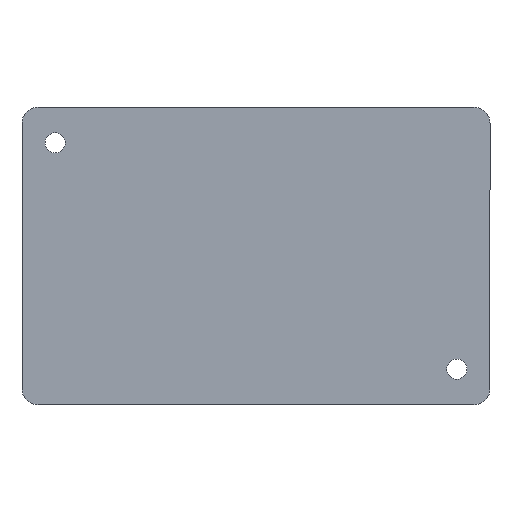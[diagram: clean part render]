
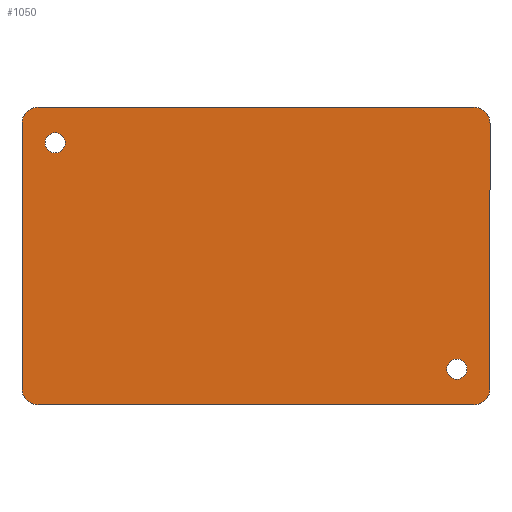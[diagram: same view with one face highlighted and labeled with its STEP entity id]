
A CAD part, front view. The second image highlights one B-rep face of the part: STEP entity #1050.
In plain terms, the highlighted planar face has unit normal (0, -1, 0).
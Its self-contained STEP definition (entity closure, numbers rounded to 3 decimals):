
#24 = VECTOR ( 'NONE', #1285, 1000. ) ;
#181 = CARTESIAN_POINT ( 'NONE',  ( -24.85, -12.7, 14. ) ) ;
#182 = DIRECTION ( 'NONE',  ( 0., 1., 0. ) ) ;
#183 = DIRECTION ( 'NONE',  ( 0., 0., 1. ) ) ;
#322 = EDGE_CURVE ( 'NONE', #2710, #2698, #1283, .T. ) ;
#355 = EDGE_CURVE ( 'NONE', #2698, #2715, #412, .T. ) ;
#360 = EDGE_CURVE ( 'NONE', #2730, #2741, #2474, .T. ) ;
#376 = EDGE_CURVE ( 'NONE', #2695, #2730, #1458, .T. ) ;
#377 = EDGE_CURVE ( 'NONE', #2715, #2695, #2839, .T. ) ;
#396 = EDGE_CURVE ( 'NONE', #2723, #2706, #500, .T. ) ;
#397 = EDGE_CURVE ( 'NONE', #2706, #2710, #2528, .T. ) ;
#412 = CIRCLE ( 'NONE', #415, 2. ) ;
#415 = AXIS2_PLACEMENT_3D ( 'NONE', #2428, #2429, #2430 ) ;
#426 = ORIENTED_EDGE ( 'NONE', *, *, #322, .F. ) ;
#500 = LINE ( 'NONE', #512, #2525 ) ;
#512 = CARTESIAN_POINT ( 'NONE',  ( -28.95, -12.7, -16.4 ) ) ;
#517 = DIRECTION ( 'NONE',  ( 0., 0., 1. ) ) ;
#520 = CARTESIAN_POINT ( 'NONE',  ( -26.95, -12.7, 16.4 ) ) ;
#521 = DIRECTION ( 'NONE',  ( 0., 1., 0. ) ) ;
#522 = DIRECTION ( 'NONE',  ( 0., 0., 1. ) ) ;
#775 = CARTESIAN_POINT ( 'NONE',  ( 24.85, -12.7, -14. ) ) ;
#776 = DIRECTION ( 'NONE',  ( 0., 1., 0. ) ) ;
#777 = DIRECTION ( 'NONE',  ( 0., 0., 1. ) ) ;
#821 = EDGE_LOOP ( 'NONE', ( #1494, #1584, #1498, #426, #1592, #1655, #1604, #1516 ) ) ;
#831 = CARTESIAN_POINT ( 'NONE',  ( -26.95, -12.7, -16.4 ) ) ;
#832 = DIRECTION ( 'NONE',  ( 0., 1., 0. ) ) ;
#833 = DIRECTION ( 'NONE',  ( 0., 0., 1. ) ) ;
#848 = CARTESIAN_POINT ( 'NONE',  ( 26.95, -12.7, 18.4 ) ) ;
#849 = CARTESIAN_POINT ( 'NONE',  ( 24.85, -12.7, -15.25 ) ) ;
#854 = CARTESIAN_POINT ( 'NONE',  ( -24.85, -12.7, 12.75 ) ) ;
#860 = CARTESIAN_POINT ( 'NONE',  ( 28.95, -12.7, -16.4 ) ) ;
#868 = CARTESIAN_POINT ( 'NONE',  ( -28.95, -12.7, 16.4 ) ) ;
#872 = CARTESIAN_POINT ( 'NONE',  ( -26.95, -12.7, 18.4 ) ) ;
#876 = CARTESIAN_POINT ( 'NONE',  ( -24.85, -12.7, 15.25 ) ) ;
#877 = CARTESIAN_POINT ( 'NONE',  ( 28.95, -12.7, 16.4 ) ) ;
#885 = CARTESIAN_POINT ( 'NONE',  ( -28.95, -12.7, -16.4 ) ) ;
#892 = CARTESIAN_POINT ( 'NONE',  ( 26.95, -12.7, -18.4 ) ) ;
#898 = CARTESIAN_POINT ( 'NONE',  ( 24.85, -12.7, -12.75 ) ) ;
#903 = CARTESIAN_POINT ( 'NONE',  ( -26.95, -12.7, -18.4 ) ) ;
#1050 = ADVANCED_FACE ( 'NONE', ( #2302, #2304, #2306 ), #2307, .F. ) ;
#1096 = EDGE_CURVE ( 'NONE', #2714, #2693, #2072, .T. ) ;
#1099 = EDGE_CURVE ( 'NONE', #2736, #2696, #2078, .T. ) ;
#1140 = EDGE_CURVE ( 'NONE', #2696, #2736, #2205, .T. ) ;
#1178 = EDGE_CURVE ( 'NONE', #2693, #2714, #2950, .T. ) ;
#1283 = LINE ( 'NONE', #1284, #24 ) ;
#1284 = CARTESIAN_POINT ( 'NONE',  ( -26.95, -12.7, 18.4 ) ) ;
#1285 = DIRECTION ( 'NONE',  ( 1., 0., 0. ) ) ;
#1458 = CIRCLE ( 'NONE', #2231, 2. ) ;
#1473 = ORIENTED_EDGE ( 'NONE', *, *, #1140, .T. ) ;
#1490 = EDGE_LOOP ( 'NONE', ( #1625, #1539 ) ) ;
#1494 = ORIENTED_EDGE ( 'NONE', *, *, #376, .F. ) ;
#1498 = ORIENTED_EDGE ( 'NONE', *, *, #355, .F. ) ;
#1504 = EDGE_LOOP ( 'NONE', ( #1618, #1473 ) ) ;
#1516 = ORIENTED_EDGE ( 'NONE', *, *, #360, .F. ) ;
#1528 = VECTOR ( 'NONE', #2476, 1000. ) ;
#1539 = ORIENTED_EDGE ( 'NONE', *, *, #1178, .T. ) ;
#1584 = ORIENTED_EDGE ( 'NONE', *, *, #377, .F. ) ;
#1592 = ORIENTED_EDGE ( 'NONE', *, *, #397, .F. ) ;
#1604 = ORIENTED_EDGE ( 'NONE', *, *, #2243, .F. ) ;
#1618 = ORIENTED_EDGE ( 'NONE', *, *, #1099, .T. ) ;
#1625 = ORIENTED_EDGE ( 'NONE', *, *, #1096, .T. ) ;
#1655 = ORIENTED_EDGE ( 'NONE', *, *, #396, .F. ) ;
#1774 = CARTESIAN_POINT ( 'NONE',  ( -24.85, -12.7, 14. ) ) ;
#1775 = DIRECTION ( 'NONE',  ( 0., 1., 0. ) ) ;
#1776 = DIRECTION ( 'NONE',  ( 0., 0., 1. ) ) ;
#1786 = CARTESIAN_POINT ( 'NONE',  ( 24.85, -12.7, -14. ) ) ;
#1787 = DIRECTION ( 'NONE',  ( 0., 1., 0. ) ) ;
#1788 = DIRECTION ( 'NONE',  ( 0., 0., 1. ) ) ;
#2072 = CIRCLE ( 'NONE', #2074, 1.25 ) ;
#2073 = AXIS2_PLACEMENT_3D ( 'NONE', #1786, #1787, #1788 ) ;
#2074 = AXIS2_PLACEMENT_3D ( 'NONE', #1774, #1775, #1776 ) ;
#2078 = CIRCLE ( 'NONE', #2073, 1.25 ) ;
#2205 = CIRCLE ( 'NONE', #2209, 1.25 ) ;
#2209 = AXIS2_PLACEMENT_3D ( 'NONE', #775, #776, #777 ) ;
#2230 = VECTOR ( 'NONE', #2843, 1000. ) ;
#2231 = AXIS2_PLACEMENT_3D ( 'NONE', #2840, #2841, #2842 ) ;
#2243 = EDGE_CURVE ( 'NONE', #2741, #2723, #3012, .T. ) ;
#2302 = FACE_BOUND ( 'NONE', #1490, .T. ) ;
#2304 = FACE_BOUND ( 'NONE', #1504, .T. ) ;
#2306 = FACE_OUTER_BOUND ( 'NONE', #821, .T. ) ;
#2307 = PLANE ( 'NONE',  #2563 ) ;
#2315 = CARTESIAN_POINT ( 'NONE',  ( 26.95, -12.7, -16.4 ) ) ;
#2316 = DIRECTION ( 'NONE',  ( 0., 1., 0. ) ) ;
#2317 = DIRECTION ( 'NONE',  ( 0., 0., 1. ) ) ;
#2428 = CARTESIAN_POINT ( 'NONE',  ( 26.95, -12.7, 16.4 ) ) ;
#2429 = DIRECTION ( 'NONE',  ( 0., 1., 0. ) ) ;
#2430 = DIRECTION ( 'NONE',  ( 0., 0., 1. ) ) ;
#2474 = LINE ( 'NONE', #2475, #1528 ) ;
#2475 = CARTESIAN_POINT ( 'NONE',  ( 26.95, -12.7, -18.4 ) ) ;
#2476 = DIRECTION ( 'NONE',  ( -1., 0., 0. ) ) ;
#2525 = VECTOR ( 'NONE', #517, 1000. ) ;
#2528 = CIRCLE ( 'NONE', #2530, 2. ) ;
#2530 = AXIS2_PLACEMENT_3D ( 'NONE', #520, #521, #522 ) ;
#2563 = AXIS2_PLACEMENT_3D ( 'NONE', #2315, #2316, #2317 ) ;
#2693 = VERTEX_POINT ( 'NONE', #854 ) ;
#2695 = VERTEX_POINT ( 'NONE', #860 ) ;
#2696 = VERTEX_POINT ( 'NONE', #849 ) ;
#2698 = VERTEX_POINT ( 'NONE', #848 ) ;
#2706 = VERTEX_POINT ( 'NONE', #868 ) ;
#2710 = VERTEX_POINT ( 'NONE', #872 ) ;
#2714 = VERTEX_POINT ( 'NONE', #876 ) ;
#2715 = VERTEX_POINT ( 'NONE', #877 ) ;
#2723 = VERTEX_POINT ( 'NONE', #885 ) ;
#2730 = VERTEX_POINT ( 'NONE', #892 ) ;
#2736 = VERTEX_POINT ( 'NONE', #898 ) ;
#2741 = VERTEX_POINT ( 'NONE', #903 ) ;
#2835 = CARTESIAN_POINT ( 'NONE',  ( 28.95, -12.7, 16.4 ) ) ;
#2839 = LINE ( 'NONE', #2835, #2230 ) ;
#2840 = CARTESIAN_POINT ( 'NONE',  ( 26.95, -12.7, -16.4 ) ) ;
#2841 = DIRECTION ( 'NONE',  ( 0., 1., 0. ) ) ;
#2842 = DIRECTION ( 'NONE',  ( 0., 0., 1. ) ) ;
#2843 = DIRECTION ( 'NONE',  ( 0., 0., -1. ) ) ;
#2950 = CIRCLE ( 'NONE', #2952, 1.25 ) ;
#2952 = AXIS2_PLACEMENT_3D ( 'NONE', #181, #182, #183 ) ;
#3012 = CIRCLE ( 'NONE', #3014, 2. ) ;
#3014 = AXIS2_PLACEMENT_3D ( 'NONE', #831, #832, #833 ) ;
